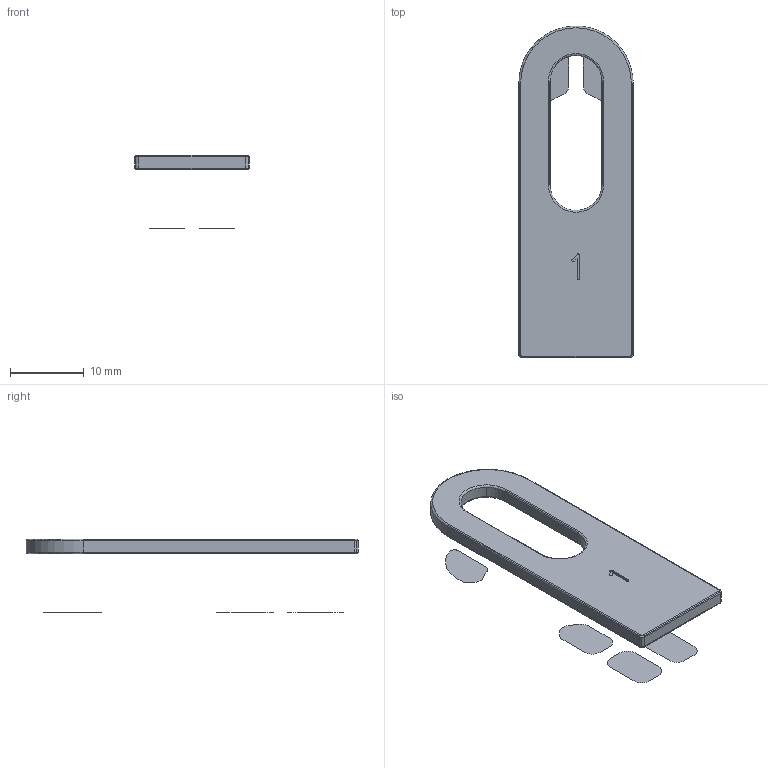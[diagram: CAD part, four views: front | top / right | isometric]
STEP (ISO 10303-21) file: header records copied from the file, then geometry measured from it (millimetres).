
FILE_DESCRIPTION(('STEP AP214'),'1');
FILE_NAME('BF-20240124-cad-shim1_1mm_light-02cbr.stp','2024-01-24T18:19:34',(' '),(' '),'Spatial InterOp 3D',' ',' ');
FILE_SCHEMA(('AUTOMOTIVE_DESIGN { 1 0 10303 214 1 1 1 1 }'));
Length unit declared in the file: metre
Products named in the file (1): Volumenkörper
Bounding box: 15.5 x 45 x 10 mm (x, y, z)
Volume: 1065.5 mm3; surface area: 1555.5 mm2
Topology: 1 solids, 7 shells, 69 faces, 212 edges, 154 vertices
Faces by surface type: cylinder 30, plane 18, extrusion 11, torus 10
Entity records: 2527 total; most frequent: CARTESIAN_POINT 537, DIRECTION 423, ORIENTED_EDGE 372, EDGE_CURVE 212, AXIS2_PLACEMENT_3D 160, VERTEX_POINT 152, VECTOR 103, CIRCLE 98
